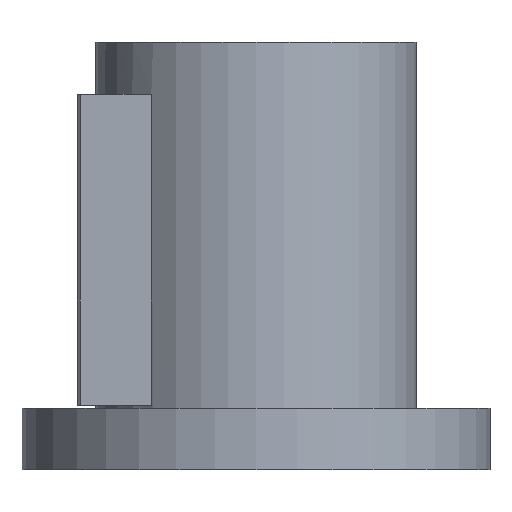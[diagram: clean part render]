
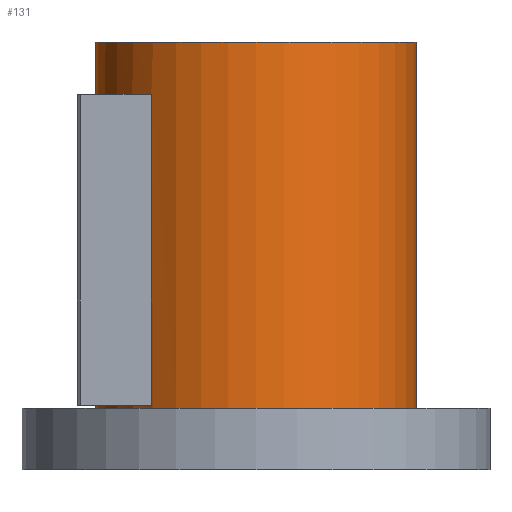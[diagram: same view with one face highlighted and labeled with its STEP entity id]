
A CAD part, front view. The second image highlights one B-rep face of the part: STEP entity #131.
In plain terms, the highlighted cylindrical face has radius 52 mm (diameter 104 mm), a full revolution.
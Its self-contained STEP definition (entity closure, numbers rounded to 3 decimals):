
#131=ADVANCED_FACE('',(#218,#219,#220),#161,.T.);
#161=CYLINDRICAL_SURFACE('',#550,52.);
#174=LINE('',#752,#196);
#175=LINE('',#756,#197);
#196=VECTOR('',#612,1.);
#197=VECTOR('',#615,1.);
#218=FACE_BOUND('',#263,.T.);
#219=FACE_BOUND('',#264,.T.);
#220=FACE_BOUND('',#265,.T.);
#263=EDGE_LOOP('',(#325));
#264=EDGE_LOOP('',(#326));
#265=EDGE_LOOP('',(#327,#328,#329,#330));
#325=ORIENTED_EDGE('',*,*,#467,.F.);
#326=ORIENTED_EDGE('',*,*,#468,.T.);
#327=ORIENTED_EDGE('',*,*,#469,.F.);
#328=ORIENTED_EDGE('',*,*,#470,.F.);
#329=ORIENTED_EDGE('',*,*,#471,.T.);
#330=ORIENTED_EDGE('',*,*,#472,.F.);
#425=VERTEX_POINT('',#746);
#426=VERTEX_POINT('',#748);
#427=VERTEX_POINT('',#750);
#428=VERTEX_POINT('',#751);
#429=VERTEX_POINT('',#753);
#430=VERTEX_POINT('',#755);
#467=EDGE_CURVE('',#425,#425,#517,.T.);
#468=EDGE_CURVE('',#426,#426,#518,.T.);
#469=EDGE_CURVE('',#427,#428,#519,.T.);
#470=EDGE_CURVE('',#429,#427,#174,.T.);
#471=EDGE_CURVE('',#429,#430,#520,.T.);
#472=EDGE_CURVE('',#428,#430,#175,.T.);
#517=CIRCLE('',#546,52.);
#518=CIRCLE('',#547,52.);
#519=CIRCLE('',#548,52.);
#520=CIRCLE('',#549,52.);
#546=AXIS2_PLACEMENT_3D('',#745,#606,#607);
#547=AXIS2_PLACEMENT_3D('',#747,#608,#609);
#548=AXIS2_PLACEMENT_3D('',#749,#610,#611);
#549=AXIS2_PLACEMENT_3D('',#754,#613,#614);
#550=AXIS2_PLACEMENT_3D('',#757,#616,#617);
#606=DIRECTION('',(0.,0.,1.));
#607=DIRECTION('',(1.,0.,0.));
#608=DIRECTION('',(0.,0.,1.));
#609=DIRECTION('',(1.,0.,0.));
#610=DIRECTION('',(0.,0.,-1.));
#611=DIRECTION('',(-1.,0.,0.));
#612=DIRECTION('',(0.,0.,1.));
#613=DIRECTION('',(0.,0.,-1.));
#614=DIRECTION('',(-1.,0.,0.));
#615=DIRECTION('',(0.,0.,-1.));
#616=DIRECTION('',(0.,0.,-1.));
#617=DIRECTION('',(-1.,0.,0.));
#745=CARTESIAN_POINT('',(0.,0.,139.));
#746=CARTESIAN_POINT('',(52.,0.,139.));
#747=CARTESIAN_POINT('',(0.,0.,20.));
#748=CARTESIAN_POINT('',(52.,0.,20.));
#749=CARTESIAN_POINT('',(0.,0.,122.));
#750=CARTESIAN_POINT('',(-34.,-39.345,122.));
#751=CARTESIAN_POINT('',(-34.,39.345,122.));
#752=CARTESIAN_POINT('',(-34.,-39.345,139.));
#753=CARTESIAN_POINT('',(-34.,-39.345,21.));
#754=CARTESIAN_POINT('',(0.,0.,21.));
#755=CARTESIAN_POINT('',(-34.,39.345,21.));
#756=CARTESIAN_POINT('',(-34.,39.345,139.));
#757=CARTESIAN_POINT('',(0.,0.,139.));
